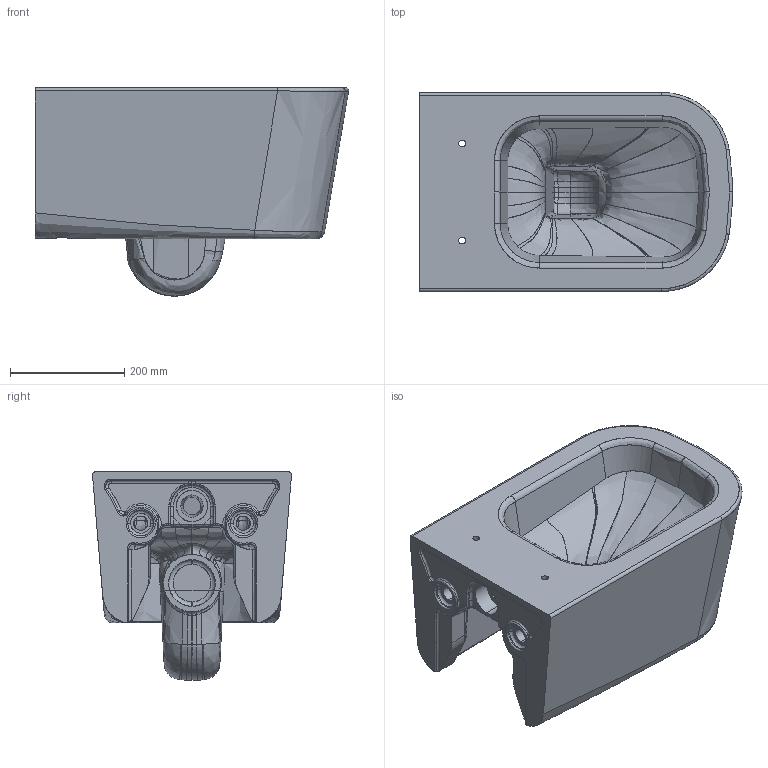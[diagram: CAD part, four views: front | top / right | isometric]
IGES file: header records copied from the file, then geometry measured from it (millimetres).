
Start section: START RECORD GO HERE.
Global section: file name: 5411.igs; native system: DASSAULT SYSTEMES CATIA V5 R19 - www.3ds.com; preprocessor: CATIA Version 5 Release 19 SP 5 ; author: gioge; organization: LAPTOP-G94B6G74; date: 20200630.121413; units: millimetre
Bounding box: 549.08 x 349.08 x 365.33 mm (x, y, z)
Surface area: 1330860.1 mm2 (no closed solid volume)
Topology: 0 solids, 0 shells, 840 faces, 4439 edges, 4402 vertices
Faces by surface type: bspline 721, plane 59, revolution 56, extrusion 4
